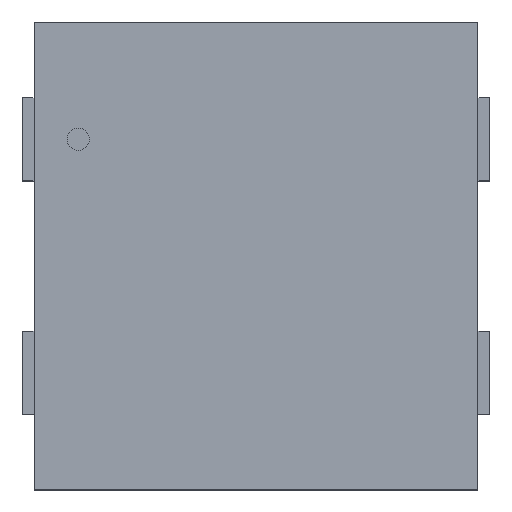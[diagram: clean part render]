
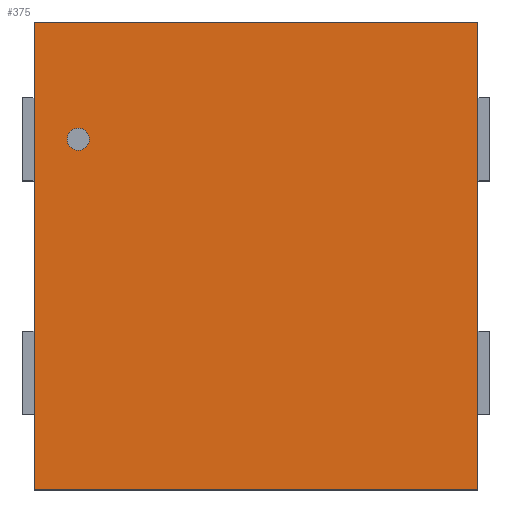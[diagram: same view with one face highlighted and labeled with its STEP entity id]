
A CAD part, top view. The second image highlights one B-rep face of the part: STEP entity #375.
In plain terms, the highlighted planar face has unit normal (0, 0, 1).
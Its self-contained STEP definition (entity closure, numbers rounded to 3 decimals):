
#151=CARTESIAN_POINT('',(0.952,-1.003,0.762));
#150=VERTEX_POINT('',#151);
#161=CARTESIAN_POINT('',(-0.952,-1.003,0.762));
#160=VERTEX_POINT('',#161);
#159=EDGE_CURVE('',#160,#150,#164,.T.);
#164=LINE('',#161,#166);
#166=VECTOR('',#167,1.905);
#167=DIRECTION('',(1.0,0.0,0.0));
#200=CARTESIAN_POINT('',(0.952,1.003,0.762));
#199=VERTEX_POINT('',#200);
#208=EDGE_CURVE('',#150,#199,#213,.T.);
#213=LINE('',#151,#215);
#215=VECTOR('',#216,2.007);
#216=DIRECTION('',(0.0,1.0,0.0));
#249=CARTESIAN_POINT('',(-0.952,1.003,0.762));
#248=VERTEX_POINT('',#249);
#257=EDGE_CURVE('',#199,#248,#262,.T.);
#262=LINE('',#200,#264);
#264=VECTOR('',#265,1.905);
#265=DIRECTION('',(-1.0,0.0,0.0));
#306=EDGE_CURVE('',#248,#160,#311,.T.);
#311=LINE('',#249,#313);
#313=VECTOR('',#314,2.007);
#314=DIRECTION('',(0.0,-1.0,0.0));
#375=ADVANCED_FACE('',(#381),#376,.T.);
#376=PLANE('',#377);
#377=AXIS2_PLACEMENT_3D('',#378,#379,#380);
#378=CARTESIAN_POINT('',(-0.952,-1.003,0.762));
#379=DIRECTION('',(0.0,0.0,1.0));
#380=DIRECTION('',(0.,1.,0.));
#381=FACE_OUTER_BOUND('',#382,.T.);
#382=EDGE_LOOP('',(#383,#393,#403,#413));
#383=ORIENTED_EDGE('',*,*,#159,.T.);
#393=ORIENTED_EDGE('',*,*,#208,.T.);
#403=ORIENTED_EDGE('',*,*,#257,.T.);
#413=ORIENTED_EDGE('',*,*,#306,.T.);
